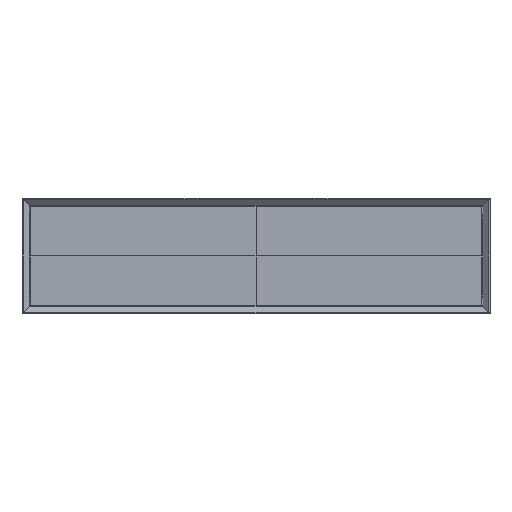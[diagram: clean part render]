
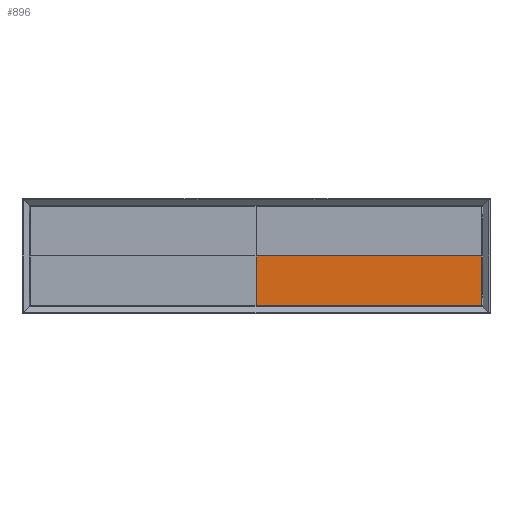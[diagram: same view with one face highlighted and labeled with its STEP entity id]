
A CAD part, front view. The second image highlights one B-rep face of the part: STEP entity #896.
In plain terms, the highlighted planar face has unit normal (0, -1, 0).
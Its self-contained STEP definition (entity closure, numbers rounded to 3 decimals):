
#876=AXIS2_PLACEMENT_3D('Plane Axis2P3D',#873,#874,#875) ;
#467=CARTESIAN_POINT('Vertex',(390.515,-1.477,-99.991)) ;
#471=CARTESIAN_POINT('Control Point',(390.515,-1.477,-99.991)) ;
#472=CARTESIAN_POINT('Control Point',(390.515,-1.477,-128.413)) ;
#473=CARTESIAN_POINT('Control Point',(390.515,-1.477,-156.835)) ;
#474=CARTESIAN_POINT('Control Point',(390.515,-1.477,-185.257)) ;
#475=CARTESIAN_POINT('Vertex',(390.515,-1.477,-185.257)) ;
#539=CARTESIAN_POINT('Vertex',(0.,-1.477,-185.257)) ;
#548=CARTESIAN_POINT('Control Point',(390.515,-1.477,-185.257)) ;
#549=CARTESIAN_POINT('Control Point',(260.343,-1.477,-185.257)) ;
#550=CARTESIAN_POINT('Control Point',(130.172,-1.477,-185.257)) ;
#551=CARTESIAN_POINT('Control Point',(0.,-1.477,-185.257)) ;
#873=CARTESIAN_POINT('Axis2P3D Location',(290.615,-1.477,-185.357)) ;
#878=CARTESIAN_POINT('Line Origine',(0.,-1.477,-142.624)) ;
#882=CARTESIAN_POINT('Vertex',(0.,-1.477,-99.991)) ;
#885=CARTESIAN_POINT('Line Origine',(195.258,-1.477,-99.991)) ;
#874=DIRECTION('Axis2P3D Direction',(-0.,-1.,-0.)) ;
#875=DIRECTION('Axis2P3D XDirection',(-1.,0.,0.)) ;
#879=DIRECTION('Vector Direction',(0.,0.,1.)) ;
#886=DIRECTION('Vector Direction',(-1.,0.,0.)) ;
#880=VECTOR('Line Direction',#879,1.) ;
#887=VECTOR('Line Direction',#886,1.) ;
#891=ORIENTED_EDGE('',*,*,#884,.F.) ;
#892=ORIENTED_EDGE('',*,*,#552,.F.) ;
#893=ORIENTED_EDGE('',*,*,#477,.F.) ;
#894=ORIENTED_EDGE('',*,*,#889,.T.) ;
#896=ADVANCED_FACE('Body.3',(#895),#877,.T.) ;
#477=EDGE_CURVE('',#468,#476,#470,.T.) ;
#552=EDGE_CURVE('',#476,#540,#547,.T.) ;
#884=EDGE_CURVE('',#540,#883,#881,.T.) ;
#889=EDGE_CURVE('',#468,#883,#888,.T.) ;
#890=EDGE_LOOP('',(#891,#892,#893,#894)) ;
#895=FACE_OUTER_BOUND('',#890,.T.) ;
#881=LINE('Line',#878,#880) ;
#888=LINE('Line',#885,#887) ;
#877=PLANE('Plane',#876) ;
#468=VERTEX_POINT('',#467) ;
#476=VERTEX_POINT('',#475) ;
#540=VERTEX_POINT('',#539) ;
#883=VERTEX_POINT('',#882) ;
#470=(BOUNDED_CURVE()B_SPLINE_CURVE(3,(#471,#472,#473,#474),.UNSPECIFIED.,.F.,.U.)B_SPLINE_CURVE_WITH_KNOTS((4,4),(132.604,217.87),.UNSPECIFIED.)CURVE()GEOMETRIC_REPRESENTATION_ITEM()RATIONAL_B_SPLINE_CURVE((1.,1.,1.,1.))REPRESENTATION_ITEM('')) ;
#547=(BOUNDED_CURVE()B_SPLINE_CURVE(3,(#548,#549,#550,#551),.UNSPECIFIED.,.F.,.U.)B_SPLINE_CURVE_WITH_KNOTS((4,4),(48.286,438.801),.UNSPECIFIED.)CURVE()GEOMETRIC_REPRESENTATION_ITEM()RATIONAL_B_SPLINE_CURVE((1.,1.,1.,1.))REPRESENTATION_ITEM('')) ;
